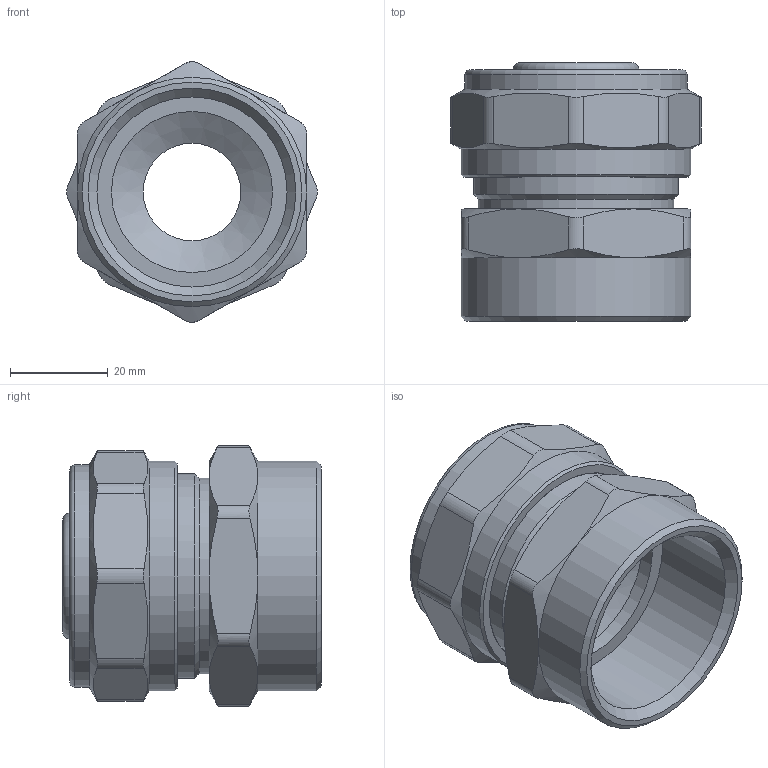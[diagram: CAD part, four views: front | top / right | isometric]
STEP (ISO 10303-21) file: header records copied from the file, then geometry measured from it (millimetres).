
FILE_DESCRIPTION(('STEP AP203'), '1');
FILE_NAME('VTm.302.N.003207', '', ('UNSPECIFIED'), ('UNSPECIFIED'), 'C3D Converter', 'C3D Toolkit', '');
FILE_SCHEMA(('CONFIG_CONTROL_DESIGN'));
Length unit declared in the file: millimetre
Products named in the file (1): ВР.302634.067.000 СБ
Bounding box: 51.3 x 53 x 53.33 mm (x, y, z)
Volume: 43951.8 mm3; surface area: 24772.9 mm2
Topology: 1 solids, 1 shells, 333 faces, 890 edges, 582 vertices
Faces by surface type: extrusion 129, plane 101, cylinder 46, torus 29, cone 28
Full cylindrical faces by diameter (mm): 20 x1, 22.8 x4, 25.8 x5, 26 x1, 32.1 x1, 32.2 x1, 32.7 x1, 33 x1, 38.953 x1, 40 x1, 40.376 x1, 42 x1, 45.5 x1, 47 x2
Entity records: 12922 total; most frequent: CARTESIAN_POINT 5446, ORIENTED_EDGE 1682, DIRECTION 1110, EDGE_CURVE 841, VERTEX_POINT 582, B_SPLINE_CURVE_WITH_KNOTS 497, VECTOR 464, EDGE_LOOP 407
